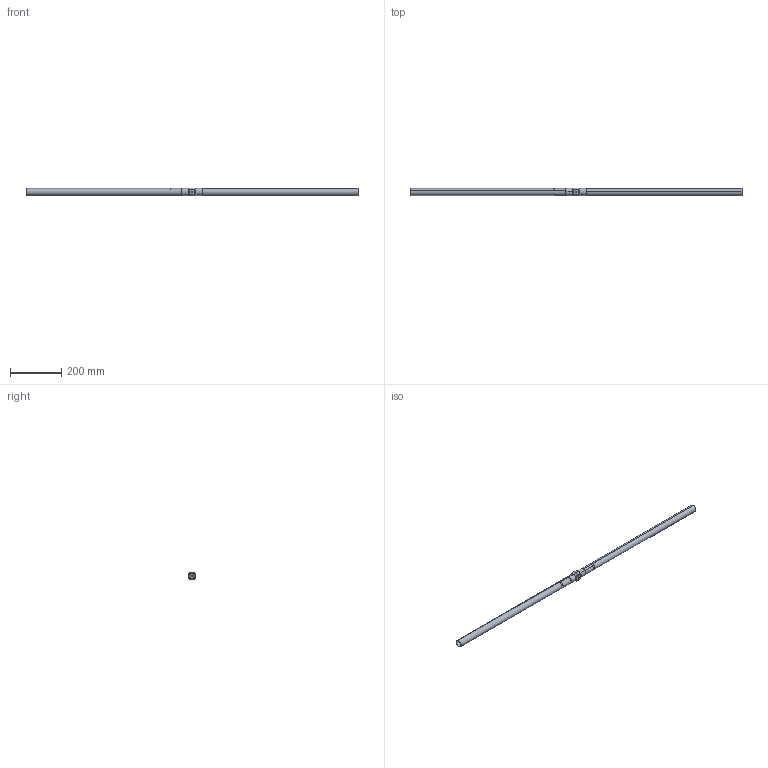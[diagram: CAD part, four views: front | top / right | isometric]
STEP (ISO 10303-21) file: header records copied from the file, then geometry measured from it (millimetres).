
FILE_DESCRIPTION (( 'STEP AP214' ), '1' );
FILE_NAME ('Threaded End Connector to Cube Connector to Threaded End Connector.STEP', '2013-10-02T16:48:00', ( 'ydmin' ), ( 'Microsoft' ), 'SwSTEP 2.0', 'SolidWorks 2013', '' );
FILE_SCHEMA (( 'AUTOMOTIVE_DESIGN' ));
Length unit declared in the file: inch
Products named in the file (5): Threaded End Connector to Cube Connector to Threaded End Connector; DRP-002-0544-00; DRP-002-0513-00; 92311A546_94105A547; 6.000 Inch Tube
Assembly tree (7 placements, depth 2):
  Threaded End Connector to Cube Connector to Threaded End Connector
    DRP-002-0544-00
    DRP-002-0513-00  x2
    92311A546_94105A547  x2
    6.000 Inch Tube  x2
Bounding box: 1298.58 x 28.57 x 28.57 mm (x, y, z)
Volume: 174894 mm3; surface area: 233996.6 mm2
Topology: 9 solids, 9 shells, 278 faces, 710 edges, 446 vertices
Faces by surface type: cylinder 152, plane 68, cone 32, bspline 22, torus 4
Entity records: 13785 total; most frequent: CARTESIAN_POINT 9381, ORIENTED_EDGE 798, DIRECTION 608, EDGE_CURVE 399, VERTEX_POINT 249, AXIS2_PLACEMENT_3D 218, VECTOR 172, LINE 172
